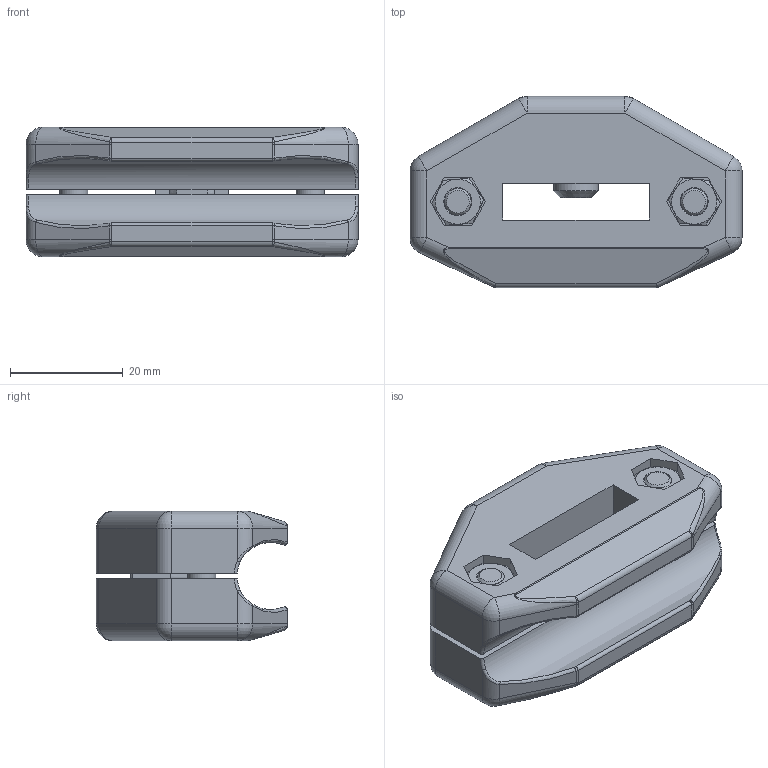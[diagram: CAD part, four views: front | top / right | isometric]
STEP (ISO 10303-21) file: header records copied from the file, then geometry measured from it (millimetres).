
FILE_DESCRIPTION(/* description */ ('GUIDE RAIL SUPPORT'),/* implementation_level */ '2;1');
FILE_NAME(/* name */ '500-6110.stp',/* time_stamp */ '2022-09-16T11:04:53+02:00',/* author */ ('HE'),/* organization */ (''),/* preprocessor_version */ 'ST-DEVELOPER v19.2',/* originating_system */ 'Autodesk Inventor 2023',/* authorisation */ '');
FILE_SCHEMA (('AUTOMOTIVE_DESIGN { 1 0 10303 214 3 1 1 }'));
Length unit declared in the file: millimetre
Products named in the file (1): 500-6110
Bounding box: 59 x 34 x 23 mm (x, y, z)
Volume: 26132.1 mm3; surface area: 13772.3 mm2
Topology: 1 solids, 1 shells, 281 faces, 712 edges, 439 vertices
Faces by surface type: plane 142, cylinder 71, cone 26, bspline 20, sphere 16, torus 6
Full cylindrical faces by diameter (mm): 5 x4, 5.5 x4, 8 x1
Entity records: 9194 total; most frequent: CARTESIAN_POINT 2298, ORIENTED_EDGE 1402, DIRECTION 1337, EDGE_CURVE 701, AXIS2_PLACEMENT_3D 475, VERTEX_POINT 439, LINE 387, VECTOR 387
